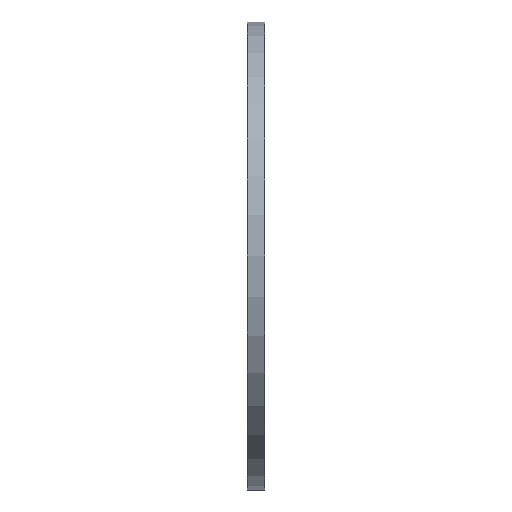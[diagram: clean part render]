
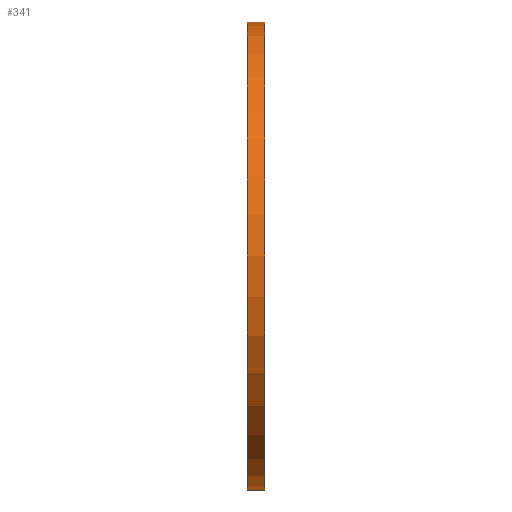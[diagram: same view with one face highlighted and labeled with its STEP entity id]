
A CAD part, left-side view. The second image highlights one B-rep face of the part: STEP entity #341.
In plain terms, the highlighted cylindrical face has radius 335 mm (diameter 670 mm), a partial arc.
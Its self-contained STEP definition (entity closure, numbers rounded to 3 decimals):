
#49 = LINE ( 'NONE', #784, #906 ) ;
#51 = VECTOR ( 'NONE', #404, 1000. ) ;
#78 = AXIS2_PLACEMENT_3D ( 'NONE', #144, #1301, #528 ) ;
#97 = CARTESIAN_POINT ( 'NONE',  ( 0., 38.545, 0. ) ) ;
#144 = CARTESIAN_POINT ( 'NONE',  ( 0., 25., 0. ) ) ;
#147 = ORIENTED_EDGE ( 'NONE', *, *, #738, .T. ) ;
#189 = AXIS2_PLACEMENT_3D ( 'NONE', #97, #1610, #1634 ) ;
#203 = CYLINDRICAL_SURFACE ( 'NONE', #189, 335. ) ;
#208 = ORIENTED_EDGE ( 'NONE', *, *, #1394, .F. ) ;
#273 = CARTESIAN_POINT ( 'NONE',  ( 0., 0., 335. ) ) ;
#341 = ADVANCED_FACE ( 'NONE', ( #1120 ), #203, .T. ) ;
#342 = ORIENTED_EDGE ( 'NONE', *, *, #1446, .F. ) ;
#394 = VERTEX_POINT ( 'NONE', #1475 ) ;
#404 = DIRECTION ( 'NONE',  ( 0., 1., 0. ) ) ;
#528 = DIRECTION ( 'NONE',  ( 0., 0., 1. ) ) ;
#541 = VERTEX_POINT ( 'NONE', #273 ) ;
#544 = EDGE_LOOP ( 'NONE', ( #342, #147, #1266, #208 ) ) ;
#581 = VERTEX_POINT ( 'NONE', #1344 ) ;
#712 = CARTESIAN_POINT ( 'NONE',  ( 0., 0., 0. ) ) ;
#719 = CIRCLE ( 'NONE', #1651, 335. ) ;
#738 = EDGE_CURVE ( 'NONE', #581, #541, #719, .T. ) ;
#754 = LINE ( 'NONE', #1162, #51 ) ;
#784 = CARTESIAN_POINT ( 'NONE',  ( 0., 38.545, -335. ) ) ;
#894 = EDGE_CURVE ( 'NONE', #541, #394, #754, .T. ) ;
#906 = VECTOR ( 'NONE', #1575, 1000. ) ;
#1120 = FACE_OUTER_BOUND ( 'NONE', #544, .T. ) ;
#1162 = CARTESIAN_POINT ( 'NONE',  ( 0., 38.545, 335. ) ) ;
#1220 = DIRECTION ( 'NONE',  ( 0., 1., 0. ) ) ;
#1266 = ORIENTED_EDGE ( 'NONE', *, *, #894, .T. ) ;
#1301 = DIRECTION ( 'NONE',  ( 0., 1., 0. ) ) ;
#1344 = CARTESIAN_POINT ( 'NONE',  ( 0., 0., -335. ) ) ;
#1373 = VERTEX_POINT ( 'NONE', #1630 ) ;
#1394 = EDGE_CURVE ( 'NONE', #1373, #394, #1626, .T. ) ;
#1446 = EDGE_CURVE ( 'NONE', #581, #1373, #49, .T. ) ;
#1475 = CARTESIAN_POINT ( 'NONE',  ( 0., 25., 335. ) ) ;
#1507 = DIRECTION ( 'NONE',  ( 0., 0., 1. ) ) ;
#1575 = DIRECTION ( 'NONE',  ( 0., 1., 0. ) ) ;
#1610 = DIRECTION ( 'NONE',  ( 0., 1., 0. ) ) ;
#1626 = CIRCLE ( 'NONE', #78, 335. ) ;
#1630 = CARTESIAN_POINT ( 'NONE',  ( 0., 25., -335. ) ) ;
#1634 = DIRECTION ( 'NONE',  ( 0., 0., 1. ) ) ;
#1651 = AXIS2_PLACEMENT_3D ( 'NONE', #712, #1220, #1507 ) ;
